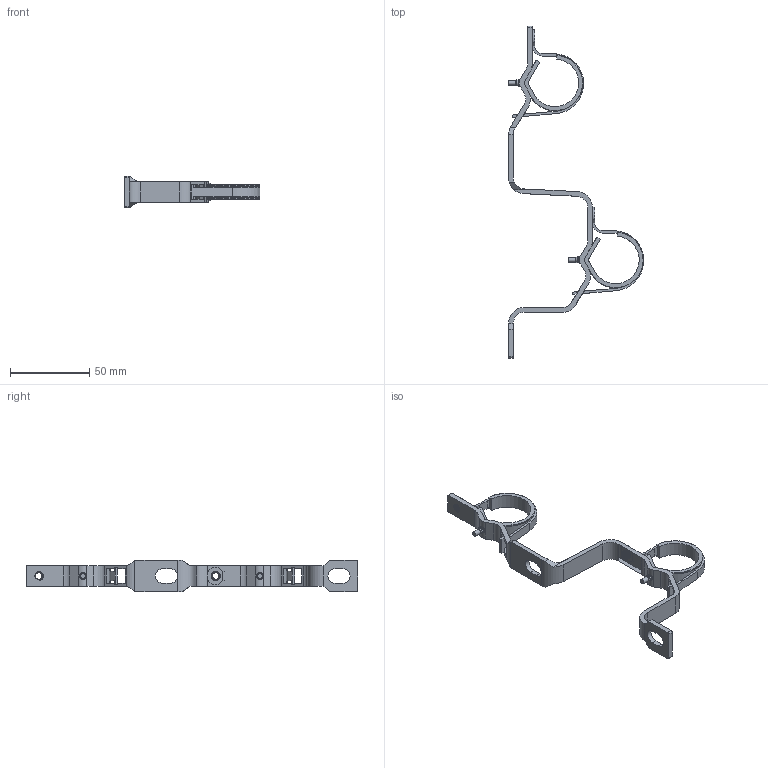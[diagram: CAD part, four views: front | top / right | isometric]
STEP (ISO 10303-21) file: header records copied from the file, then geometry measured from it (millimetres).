
FILE_DESCRIPTION(/* description */ (''),/* implementation_level */ '2;1');
FILE_NAME(/* name */ 'F:\Артём\00000\Работа удаленка\VTc.130\VTc.130.N.0500.stp',/* time_stamp */ '2022-11-03T10:21:53+03:00',/* author */ ('almis'),/* organization */ (''),/* preprocessor_version */ 'ST-DEVELOPER v18',/* originating_system */ 'Autodesk Inventor 2020',/* authorisation */ '');
FILE_SCHEMA (('AUTOMOTIVE_DESIGN { 1 0 10303 214 3 1 1 }'));
Length unit declared in the file: millimetre
Products named in the file (4): VTc.130.N.0500; VTc.130.N.0500_01_00; VTc.130.N.0500_06; VTc.130.N.0500_03
Assembly tree (5 placements, depth 2):
  VTc.130.N.0500
    VTc.130.N.0500_01_00
    VTc.130.N.0500_03  x2
    VTc.130.N.0500_06  x2
Bounding box: 85.68 x 210 x 20.2 mm (x, y, z)
Volume: 16792.5 mm3; surface area: 18369 mm2
Topology: 5 solids, 5 shells, 284 faces, 779 edges, 501 vertices
Faces by surface type: cylinder 124, plane 112, torus 36, cone 8, bspline 4
Full cylindrical faces by diameter (mm): 3 x2, 3.8 x2, 4.2 x8, 4.209 x3, 5.5 x2
Entity records: 8606 total; most frequent: CARTESIAN_POINT 3274, DIRECTION 1106, ORIENTED_EDGE 1096, EDGE_CURVE 548, AXIS2_PLACEMENT_3D 401, VERTEX_POINT 356, LINE 304, VECTOR 304
